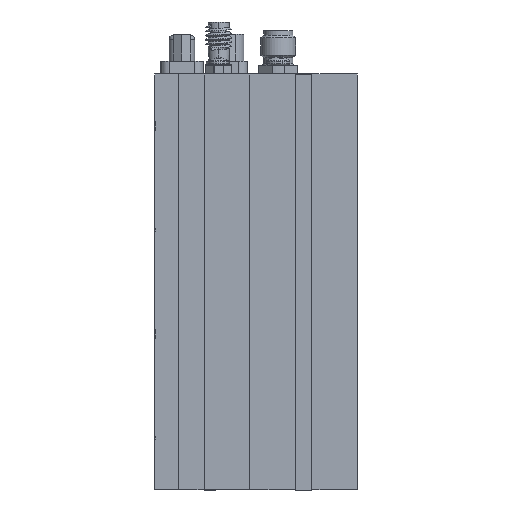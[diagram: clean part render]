
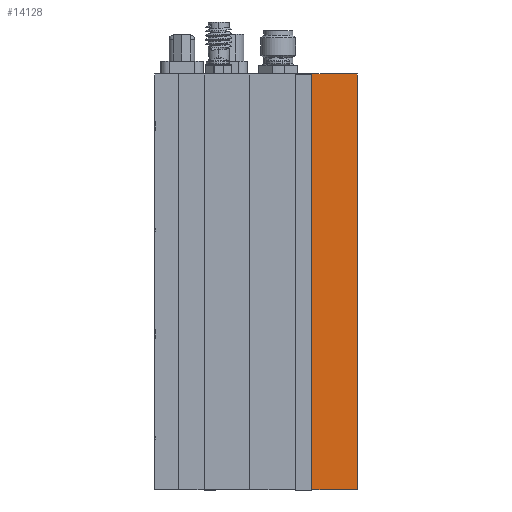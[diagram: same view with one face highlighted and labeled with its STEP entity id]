
A CAD part, left-side view. The second image highlights one B-rep face of the part: STEP entity #14128.
In plain terms, the highlighted planar face has unit normal (-1, 0, 0).
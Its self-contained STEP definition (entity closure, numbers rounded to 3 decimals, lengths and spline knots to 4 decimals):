
#2161 = VERTEX_POINT ( 'NONE', #26094 ) ;
#2622 = VERTEX_POINT ( 'NONE', #38630 ) ;
#3519 = LINE ( 'NONE', #32523, #3524 ) ;
#3524 = VECTOR ( 'NONE', #32524, 39.3701 ) ;
#4158 = LINE ( 'NONE', #36396, #4159 ) ;
#4159 = VECTOR ( 'NONE', #36414, 39.3701 ) ;
#4162 = LINE ( 'NONE', #36434, #4165 ) ;
#4164 = LINE ( 'NONE', #36436, #4169 ) ;
#4165 = VECTOR ( 'NONE', #36437, 39.3701 ) ;
#4169 = VECTOR ( 'NONE', #36441, 39.3701 ) ;
#5881 = VERTEX_POINT ( 'NONE', #37896 ) ;
#5925 = VERTEX_POINT ( 'NONE', #37910 ) ;
#14128 = ADVANCED_FACE ( 'NONE', ( #16522 ), #16771, .F. ) ;
#16522 = FACE_OUTER_BOUND ( 'NONE', #40949, .T. ) ;
#16771 = PLANE ( 'NONE',  #24580 ) ;
#16772 = CARTESIAN_POINT ( 'NONE',  ( -1., 0.328, 0. ) ) ;
#16773 = DIRECTION ( 'NONE',  ( 1., 0., 0. ) ) ;
#16774 = DIRECTION ( 'NONE',  ( 0., 0., -1. ) ) ;
#24580 = AXIS2_PLACEMENT_3D ( 'NONE', #16772, #16773, #16774 ) ;
#26094 = CARTESIAN_POINT ( 'NONE',  ( -1., 0.328, 0. ) ) ;
#29913 = EDGE_CURVE ( 'NONE', #5925, #2622, #3519, .T. ) ;
#30630 = EDGE_CURVE ( 'NONE', #5925, #2161, #4158, .T. ) ;
#30641 = EDGE_CURVE ( 'NONE', #2622, #5881, #4162, .T. ) ;
#30645 = EDGE_CURVE ( 'NONE', #2161, #5881, #4164, .T. ) ;
#30730 = ORIENTED_EDGE ( 'NONE', *, *, #30641, .T. ) ;
#30734 = ORIENTED_EDGE ( 'NONE', *, *, #30645, .F. ) ;
#30736 = ORIENTED_EDGE ( 'NONE', *, *, #29913, .T. ) ;
#30738 = ORIENTED_EDGE ( 'NONE', *, *, #30630, .F. ) ;
#32523 = CARTESIAN_POINT ( 'NONE',  ( -1., 0.328, -3. ) ) ;
#32524 = DIRECTION ( 'NONE',  ( 0., -1., 0. ) ) ;
#36396 = CARTESIAN_POINT ( 'NONE',  ( -1., 0.328, 0. ) ) ;
#36414 = DIRECTION ( 'NONE',  ( 0., 0., 1. ) ) ;
#36434 = CARTESIAN_POINT ( 'NONE',  ( -1., 0., 0. ) ) ;
#36436 = CARTESIAN_POINT ( 'NONE',  ( -1., 0.328, 0. ) ) ;
#36437 = DIRECTION ( 'NONE',  ( 0., 0., 1. ) ) ;
#36441 = DIRECTION ( 'NONE',  ( 0., -1., 0. ) ) ;
#37896 = CARTESIAN_POINT ( 'NONE',  ( -1., 0., 0. ) ) ;
#37910 = CARTESIAN_POINT ( 'NONE',  ( -1., 0.328, -3. ) ) ;
#38630 = CARTESIAN_POINT ( 'NONE',  ( -1., 0., -3. ) ) ;
#40949 = EDGE_LOOP ( 'NONE', ( #30730, #30734, #30738, #30736 ) ) ;
